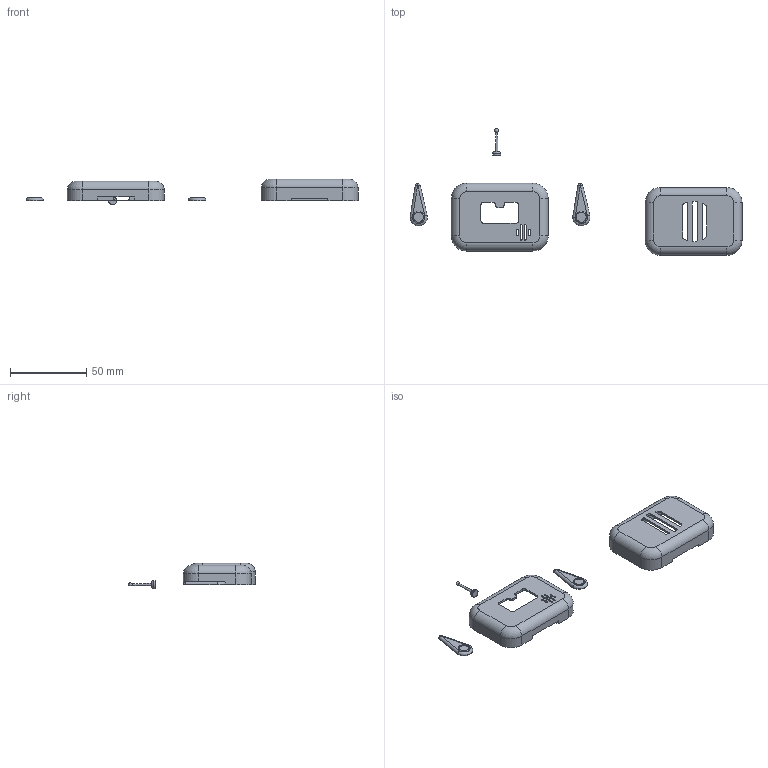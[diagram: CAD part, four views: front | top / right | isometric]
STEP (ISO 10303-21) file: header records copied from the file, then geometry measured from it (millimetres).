
FILE_DESCRIPTION(/* description */ ('STEP AP242 Edition 2','CAx-IF Rec.Pracs.---Representation and Presentation of Product Manufacturing Information (PMI)---4.0---2014-10-13','CAx-IF Rec.Pracs.---3D Tessellated Geometry---0.4---2014-09-14','2;1','CAx-IF Rec.Pracs.---User Defined Attributes---1.5---2016-08-15'),/* implementation_level */ '2;1');
FILE_NAME(/* name */ 'Part Studio 1',/* time_stamp */ '2026-11-21T18:34:25Z',/* author */ (''),/* organization */ (''),/* preprocessor_version */ 'ST-DEVELOPER v20',/* originating_system */ 'ONSHAPE BY PTC INC, 1.224',/* authorisation */ ' ');
FILE_SCHEMA (('AP242_MANAGED_MODEL_BASED_3D_ENGINEERING_MIM_LF { 1 0 10303 442 3 1 4 }'));
Length unit declared in the file: metre
Products named in the file (5): Part 2; Part 5; Part 3; Part 4; Part 1
Bounding box: 217.77 x 83.02 x 16.59 mm (x, y, z)
Volume: 11749.7 mm3; surface area: 19329.9 mm2
Topology: 5 solids, 5 shells, 198 faces, 507 edges, 319 vertices
Faces by surface type: cylinder 93, plane 78, torus 21, sphere 5, cone 1
Full cylindrical faces by diameter (mm): 5.232 x1, 6.533 x2
Entity records: 6091 total; most frequent: DIRECTION 1106, CARTESIAN_POINT 1021, ORIENTED_EDGE 986, EDGE_CURVE 493, AXIS2_PLACEMENT_3D 412, VERTEX_POINT 317, LINE 282, VECTOR 282
